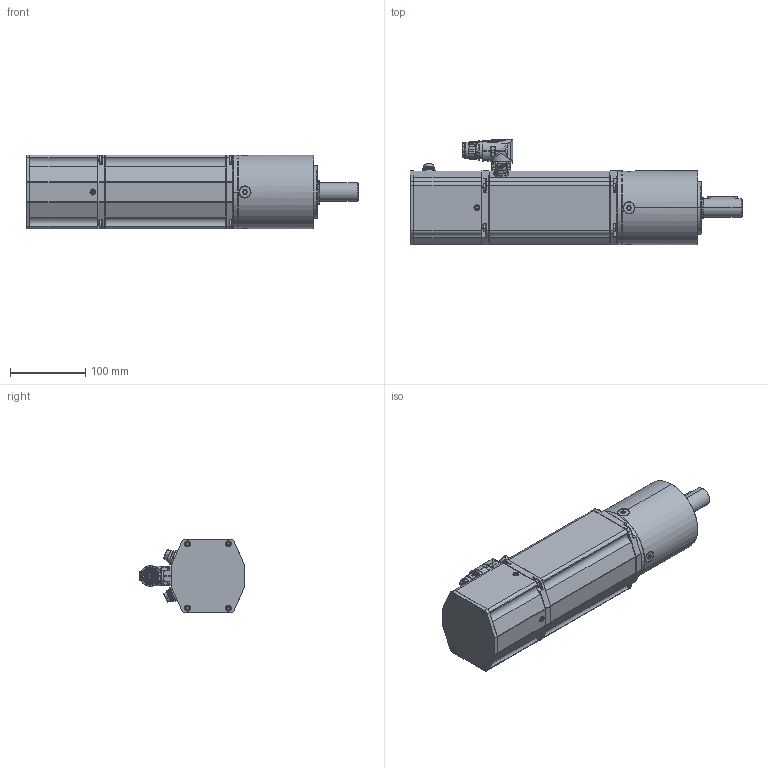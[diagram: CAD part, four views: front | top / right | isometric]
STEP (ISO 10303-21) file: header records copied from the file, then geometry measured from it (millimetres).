
FILE_DESCRIPTION((''),'2;1');
FILE_NAME('9659503130_SW0001','2018-10-05T',('HMeister'),(''),'CREO PARAMETRIC BY PTC INC, 2016050','CREO PARAMETRIC BY PTC INC, 2016050','');
FILE_SCHEMA(('CONFIG_CONTROL_DESIGN'));
Products named in the file (1): 9659503130_SW0001
Bounding box: 440.45 x 140.3 x 98 mm (x, y, z)
Volume: 1443018 mm3; surface area: 355202.3 mm2
Topology: 3 solids, 8 shells, 3350 faces, 8464 edges, 5270 vertices
Faces by surface type: cylinder 1025, bspline 790, plane 711, torus 401, cone 387, sphere 36
Entity records: 136672 total; most frequent: CARTESIAN_POINT 61331, ORIENTED_EDGE 16800, DIRECTION 14480, EDGE_CURVE 8400, AXIS2_PLACEMENT_3D 6006, VERTEX_POINT 5267, EDGE_LOOP 3589, CIRCLE 3445
